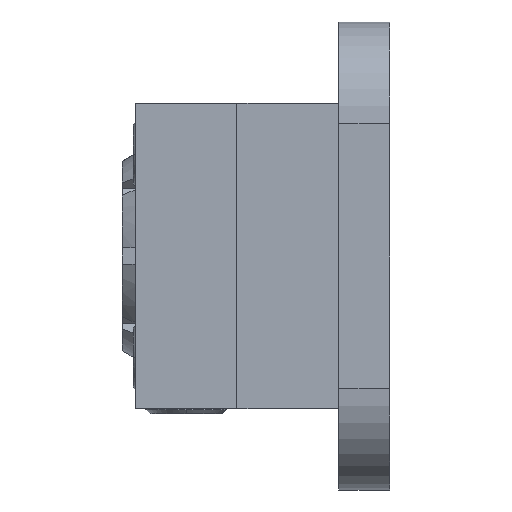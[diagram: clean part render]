
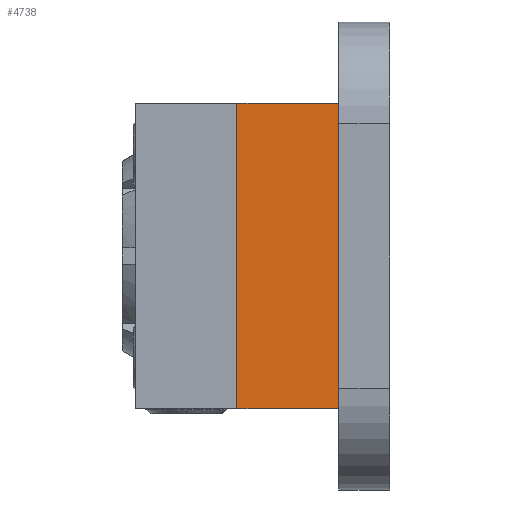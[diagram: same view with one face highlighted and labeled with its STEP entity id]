
A CAD part, left-side view. The second image highlights one B-rep face of the part: STEP entity #4738.
In plain terms, the highlighted planar face has unit normal (-1, 0, 0) as drawn and (0, 0, -1) by its records, which use the part's own axes.
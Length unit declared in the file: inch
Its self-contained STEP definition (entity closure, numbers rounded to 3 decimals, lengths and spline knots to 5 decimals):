
#4738 = ADVANCED_FACE ( 'NONE', ( #24854 ), #43347, .F. ) ;
#9248 = ORIENTED_EDGE ( 'NONE', *, *, #9622, .F. ) ;
#9249 = ORIENTED_EDGE ( 'NONE', *, *, #9620, .T. ) ;
#9252 = ORIENTED_EDGE ( 'NONE', *, *, #59065, .T. ) ;
#9253 = ORIENTED_EDGE ( 'NONE', *, *, #9617, .F. ) ;
#9617 = EDGE_CURVE ( 'NONE', #12821, #12845, #18322, .T. ) ;
#9620 = EDGE_CURVE ( 'NONE', #12726, #12813, #18328, .T. ) ;
#9622 = EDGE_CURVE ( 'NONE', #12726, #12821, #18332, .T. ) ;
#12726 = VERTEX_POINT ( 'NONE', #37012 ) ;
#12813 = VERTEX_POINT ( 'NONE', #36913 ) ;
#12821 = VERTEX_POINT ( 'NONE', #36905 ) ;
#12845 = VERTEX_POINT ( 'NONE', #36880 ) ;
#18322 = LINE ( 'NONE', #39932, #18323 ) ;
#18323 = VECTOR ( 'NONE', #39931, 39.37008 ) ;
#18328 = LINE ( 'NONE', #39620, #18329 ) ;
#18329 = VECTOR ( 'NONE', #39619, 39.37008 ) ;
#18332 = LINE ( 'NONE', #39615, #18333 ) ;
#18333 = VECTOR ( 'NONE', #39612, 39.37008 ) ;
#21743 = AXIS2_PLACEMENT_3D ( 'NONE', #43343, #43339, #43337 ) ;
#24854 = FACE_OUTER_BOUND ( 'NONE', #35848, .T. ) ;
#35848 = EDGE_LOOP ( 'NONE', ( #9252, #9253, #9248, #9249 ) ) ;
#36880 = CARTESIAN_POINT ( 'NONE',  ( 0., 0., -0.375 ) ) ;
#36905 = CARTESIAN_POINT ( 'NONE',  ( 0., 0.5, -0.375 ) ) ;
#36913 = CARTESIAN_POINT ( 'NONE',  ( 1.5, 0., -0.375 ) ) ;
#37012 = CARTESIAN_POINT ( 'NONE',  ( 1.5, 0.5, -0.375 ) ) ;
#39612 = DIRECTION ( 'NONE',  ( -1., 0., 0. ) ) ;
#39615 = CARTESIAN_POINT ( 'NONE',  ( 0., 0.5, -0.375 ) ) ;
#39619 = DIRECTION ( 'NONE',  ( 0., -1., 0. ) ) ;
#39620 = CARTESIAN_POINT ( 'NONE',  ( 1.5, 0.5, -0.375 ) ) ;
#39931 = DIRECTION ( 'NONE',  ( 0., -1., 0. ) ) ;
#39932 = CARTESIAN_POINT ( 'NONE',  ( 0., 0.5, -0.375 ) ) ;
#43337 = DIRECTION ( 'NONE',  ( 1., 0., 0. ) ) ;
#43339 = DIRECTION ( 'NONE',  ( 0., 0., 1. ) ) ;
#43343 = CARTESIAN_POINT ( 'NONE',  ( 0., 0.5, -0.375 ) ) ;
#43347 = PLANE ( 'NONE',  #21743 ) ;
#58275 = CARTESIAN_POINT ( 'NONE',  ( 0., 0., -0.375 ) ) ;
#58276 = DIRECTION ( 'NONE',  ( -1., 0., 0. ) ) ;
#59065 = EDGE_CURVE ( 'NONE', #12813, #12845, #62820, .T. ) ;
#62820 = LINE ( 'NONE', #58275, #62821 ) ;
#62821 = VECTOR ( 'NONE', #58276, 39.37008 ) ;
